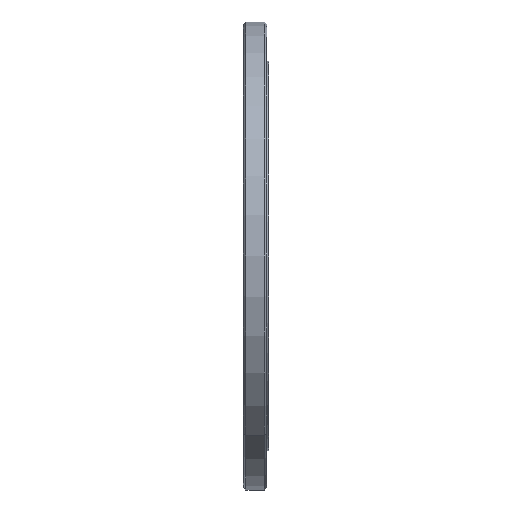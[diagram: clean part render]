
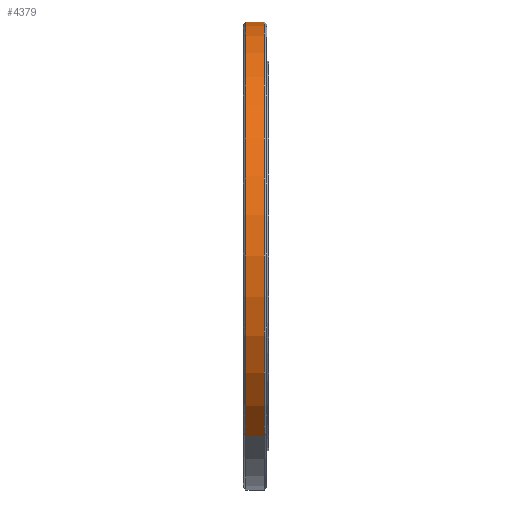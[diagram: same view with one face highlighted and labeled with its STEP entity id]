
A CAD part, left-side view. The second image highlights one B-rep face of the part: STEP entity #4379.
In plain terms, the highlighted cylindrical face has radius 139.7 mm (diameter 279.4 mm), a partial arc.
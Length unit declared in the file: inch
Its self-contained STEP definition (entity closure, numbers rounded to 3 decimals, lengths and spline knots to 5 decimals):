
#345 = CARTESIAN_POINT ( 'NONE',  ( 0., 0.5315, 5.5 ) ) ;
#368 = AXIS2_PLACEMENT_3D ( 'NONE', #2452, #5404, #3302 ) ;
#450 = ORIENTED_EDGE ( 'NONE', *, *, #2992, .T. ) ;
#609 = CYLINDRICAL_SURFACE ( 'NONE', #368, 5.5 ) ;
#877 = CARTESIAN_POINT ( 'NONE',  ( 0., 0.5315, 0. ) ) ;
#960 = ORIENTED_EDGE ( 'NONE', *, *, #3735, .T. ) ;
#1086 = CARTESIAN_POINT ( 'NONE',  ( 0., 0.09843, 5.5 ) ) ;
#1244 = ORIENTED_EDGE ( 'NONE', *, *, #2435, .T. ) ;
#1333 = AXIS2_PLACEMENT_3D ( 'NONE', #4663, #2113, #5078 ) ;
#1336 = DIRECTION ( 'NONE',  ( 0., 0., -1. ) ) ;
#1601 = VECTOR ( 'NONE', #1670, 39.37008 ) ;
#1670 = DIRECTION ( 'NONE',  ( 0., -1., 0. ) ) ;
#1688 = CARTESIAN_POINT ( 'NONE',  ( 0., 0.09843, -5.5 ) ) ;
#1942 = FACE_OUTER_BOUND ( 'NONE', #2292, .T. ) ;
#1988 = AXIS2_PLACEMENT_3D ( 'NONE', #877, #3903, #1336 ) ;
#2113 = DIRECTION ( 'NONE',  ( 0., 1., 0. ) ) ;
#2168 = EDGE_CURVE ( 'NONE', #3803, #3584, #2366, .T. ) ;
#2292 = EDGE_LOOP ( 'NONE', ( #5493, #450, #1244, #960 ) ) ;
#2366 = LINE ( 'NONE', #4741, #5588 ) ;
#2377 = VERTEX_POINT ( 'NONE', #5451 ) ;
#2435 = EDGE_CURVE ( 'NONE', #2377, #2854, #4006, .T. ) ;
#2452 = CARTESIAN_POINT ( 'NONE',  ( 0., 0., 0. ) ) ;
#2854 = VERTEX_POINT ( 'NONE', #1688 ) ;
#2992 = EDGE_CURVE ( 'NONE', #3803, #2377, #3424, .T. ) ;
#3302 = DIRECTION ( 'NONE',  ( 0., 0., -1. ) ) ;
#3424 = CIRCLE ( 'NONE', #1988, 5.5 ) ;
#3584 = VERTEX_POINT ( 'NONE', #1086 ) ;
#3735 = EDGE_CURVE ( 'NONE', #2854, #3584, #3810, .T. ) ;
#3803 = VERTEX_POINT ( 'NONE', #345 ) ;
#3810 = CIRCLE ( 'NONE', #1333, 5.5 ) ;
#3903 = DIRECTION ( 'NONE',  ( 0., -1., 0. ) ) ;
#4006 = LINE ( 'NONE', #5504, #1601 ) ;
#4379 = ADVANCED_FACE ( 'NONE', ( #1942 ), #609, .T. ) ;
#4663 = CARTESIAN_POINT ( 'NONE',  ( 0., 0.09843, 0. ) ) ;
#4741 = CARTESIAN_POINT ( 'NONE',  ( 0., 0., 5.5 ) ) ;
#5078 = DIRECTION ( 'NONE',  ( 0., 0., -1. ) ) ;
#5150 = DIRECTION ( 'NONE',  ( 0., -1., 0. ) ) ;
#5404 = DIRECTION ( 'NONE',  ( 0., -1., 0. ) ) ;
#5451 = CARTESIAN_POINT ( 'NONE',  ( 0., 0.5315, -5.5 ) ) ;
#5493 = ORIENTED_EDGE ( 'NONE', *, *, #2168, .F. ) ;
#5504 = CARTESIAN_POINT ( 'NONE',  ( 0., 0., -5.5 ) ) ;
#5588 = VECTOR ( 'NONE', #5150, 39.37008 ) ;
